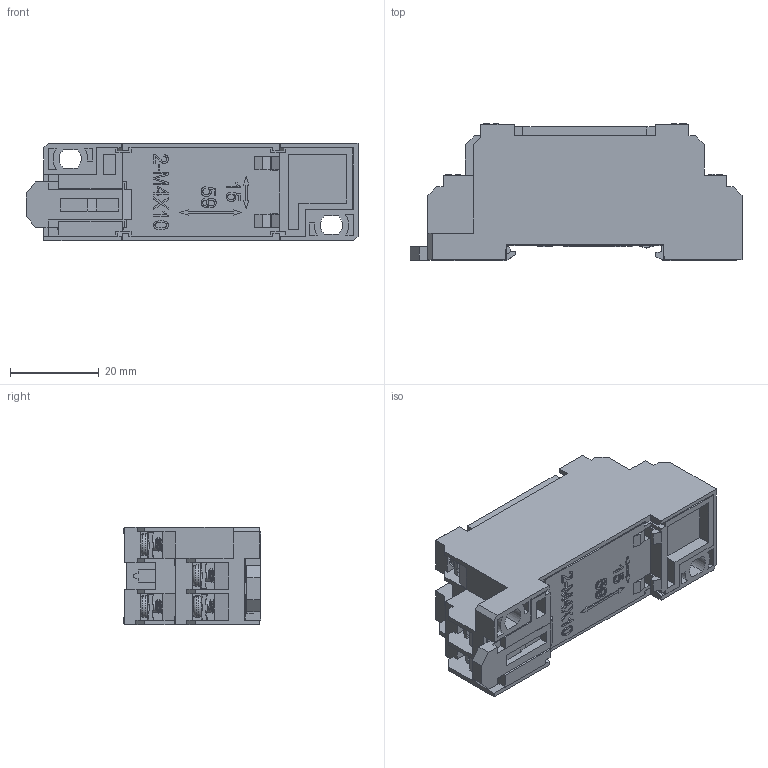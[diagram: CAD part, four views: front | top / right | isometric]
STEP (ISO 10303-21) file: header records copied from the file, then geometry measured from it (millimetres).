
FILE_DESCRIPTION(/* description */ (''),/* implementation_level */ '2;1');
FILE_NAME(/* name */ 'PGR-2C-E.stp',/* time_stamp */ '2018-08-29T17:08:44+08:00',/* author */ (''),/* organization */ (''),/* preprocessor_version */ 'ST-DEVELOPER v16.7',/* originating_system */ 'SIEMENS PLM Software NX 12.0',/* authorisation */ '');
FILE_SCHEMA (('AUTOMOTIVE_DESIGN { 1 0 10303 214 3 1 1 1 }'));
Products named in the file (14): M3X7.5X5.8X4.9284; HT7.730.017285; HT7.730.016286; HT7.730.015287; HT7.730.014288; HT7.730.013289; HT7.730.012290; HT7.730.011291; HT7.730.010292; HT7.810.016-sl293; HT8.382.000294; HT7.814.003-sl295; HT8.205.000296; _model1
Assembly tree (20 placements, depth 2):
  _model1
    HT8.205.000296
    HT7.814.003-sl295
    HT8.382.000294
    HT7.810.016-sl293
    HT7.730.010292
    HT7.730.011291
    HT7.730.012290
    HT7.730.013289
    HT7.730.014288
    HT7.730.015287
    HT7.730.016286
    HT7.730.017285
    M3X7.5X5.8X4.9284  x8
Bounding box: 75.02 x 31 x 22 mm (x, y, z)
Volume: 16816.1 mm3; surface area: 32433 mm2
Topology: 28 solids, 28 shells, 2981 faces, 8279 edges, 5328 vertices
Faces by surface type: plane 2062, cylinder 521, bspline 163, extrusion 131, sphere 48, torus 40, cone 16
Full cylindrical faces by diameter (mm): 1.2 x4, 2.3 x8, 2.5 x64, 3 x8, 3.5 x1, 4.9 x8, 5.3 x4
Entity records: 85322 total; most frequent: CARTESIAN_POINT 20029, ORIENTED_EDGE 12208, DIRECTION 10794, EDGE_CURVE 6104, VECTOR 5230, LINE 5099, VERTEX_POINT 4045, AXIS2_PLACEMENT_3D 2782
